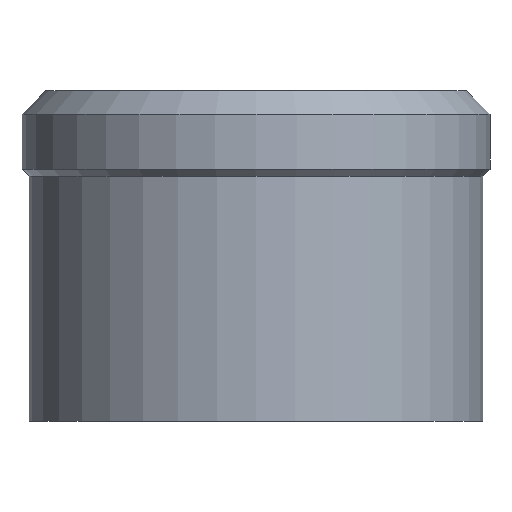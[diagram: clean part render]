
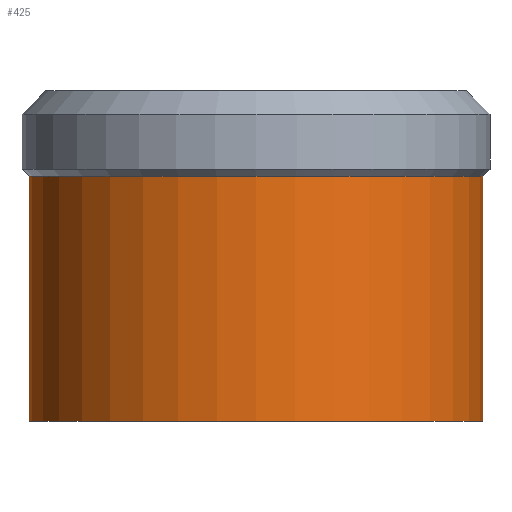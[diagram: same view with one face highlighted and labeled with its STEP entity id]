
A CAD part, front view. The second image highlights one B-rep face of the part: STEP entity #425.
In plain terms, the highlighted cylindrical face has radius 14.5 mm (diameter 29 mm), a full revolution.
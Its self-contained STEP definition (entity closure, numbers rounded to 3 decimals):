
#98=CYLINDRICAL_SURFACE('',#471,14.5);
#109=FACE_BOUND('',#168,.T.);
#135=FACE_OUTER_BOUND('',#167,.T.);
#167=EDGE_LOOP('',(#379));
#168=EDGE_LOOP('',(#380));
#196=CIRCLE('',#470,14.5);
#197=CIRCLE('',#472,14.5);
#236=VERTEX_POINT('',#712);
#237=VERTEX_POINT('',#715);
#290=EDGE_CURVE('',#236,#236,#196,.T.);
#291=EDGE_CURVE('',#237,#237,#197,.T.);
#379=ORIENTED_EDGE('',*,*,#291,.F.);
#380=ORIENTED_EDGE('',*,*,#290,.F.);
#425=ADVANCED_FACE('',(#135,#109),#98,.T.);
#470=AXIS2_PLACEMENT_3D('',#713,#590,#591);
#471=AXIS2_PLACEMENT_3D('',#714,#592,#593);
#472=AXIS2_PLACEMENT_3D('',#716,#594,#595);
#590=DIRECTION('center_axis',(0.,0.,1.));
#591=DIRECTION('ref_axis',(-1.,0.,0.));
#592=DIRECTION('center_axis',(0.,0.,1.));
#593=DIRECTION('ref_axis',(-1.,0.,0.));
#594=DIRECTION('center_axis',(0.,0.,-1.));
#595=DIRECTION('ref_axis',(-1.,0.,0.));
#712=CARTESIAN_POINT('',(14.5,0.,15.65));
#713=CARTESIAN_POINT('Origin',(0.,0.,15.65));
#714=CARTESIAN_POINT('Origin',(0.,0.,0.));
#715=CARTESIAN_POINT('',(14.5,0.,0.));
#716=CARTESIAN_POINT('Origin',(0.,0.,0.));
